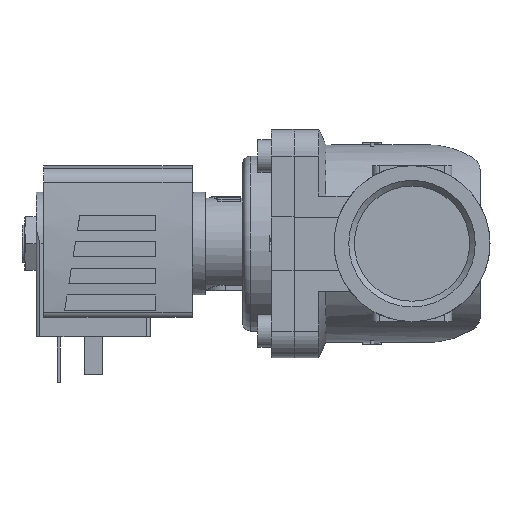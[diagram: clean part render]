
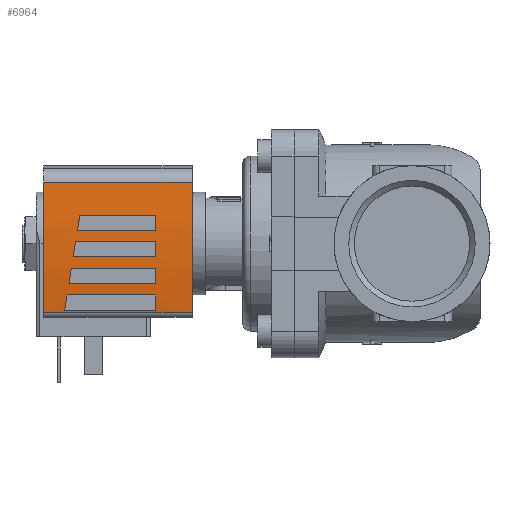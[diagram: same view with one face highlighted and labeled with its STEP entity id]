
A CAD part, left-side view. The second image highlights one B-rep face of the part: STEP entity #6964.
In plain terms, the highlighted cylindrical face has radius 130 mm (diameter 260 mm), a partial arc.
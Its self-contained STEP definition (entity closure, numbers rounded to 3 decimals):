
#164=ELLIPSE('',#7537,131.653,130.);
#165=ELLIPSE('',#7539,131.653,130.);
#166=ELLIPSE('',#7542,131.653,130.);
#167=ELLIPSE('',#7544,131.653,130.);
#247=CYLINDRICAL_SURFACE('',#7536,130.);
#636=LINE('',#10923,#1136);
#638=LINE('',#10943,#1138);
#639=LINE('',#10947,#1139);
#640=LINE('',#10948,#1140);
#641=LINE('',#10953,#1141);
#642=LINE('',#10958,#1142);
#643=LINE('',#10962,#1143);
#644=LINE('',#10966,#1144);
#645=LINE('',#10970,#1145);
#646=LINE('',#10974,#1146);
#1136=VECTOR('',#8960,1000.);
#1138=VECTOR('',#8982,1000.);
#1139=VECTOR('',#8985,1000.);
#1140=VECTOR('',#8986,1000.);
#1141=VECTOR('',#8989,1000.);
#1142=VECTOR('',#8994,1000.);
#1143=VECTOR('',#8997,1000.);
#1144=VECTOR('',#9000,1000.);
#1145=VECTOR('',#9003,1000.);
#1146=VECTOR('',#9006,1000.);
#2524=ORIENTED_EDGE('',*,*,#3563,.F.);
#2525=ORIENTED_EDGE('',*,*,#3564,.F.);
#2526=ORIENTED_EDGE('',*,*,#3565,.F.);
#2527=ORIENTED_EDGE('',*,*,#3566,.F.);
#2528=ORIENTED_EDGE('',*,*,#3567,.F.);
#2529=ORIENTED_EDGE('',*,*,#3568,.F.);
#2530=ORIENTED_EDGE('',*,*,#3569,.F.);
#2531=ORIENTED_EDGE('',*,*,#3570,.F.);
#2532=ORIENTED_EDGE('',*,*,#3571,.T.);
#2533=ORIENTED_EDGE('',*,*,#3572,.F.);
#2534=ORIENTED_EDGE('',*,*,#3557,.F.);
#2535=ORIENTED_EDGE('',*,*,#3554,.T.);
#2536=ORIENTED_EDGE('',*,*,#3573,.F.);
#2537=ORIENTED_EDGE('',*,*,#3574,.F.);
#2538=ORIENTED_EDGE('',*,*,#3575,.F.);
#2539=ORIENTED_EDGE('',*,*,#3576,.F.);
#2540=ORIENTED_EDGE('',*,*,#3577,.F.);
#2541=ORIENTED_EDGE('',*,*,#3578,.F.);
#2542=ORIENTED_EDGE('',*,*,#3579,.F.);
#2543=ORIENTED_EDGE('',*,*,#3580,.F.);
#3554=EDGE_CURVE('',#4177,#4176,#636,.T.);
#3557=EDGE_CURVE('',#4177,#4179,#4458,.T.);
#3563=EDGE_CURVE('',#4183,#4184,#164,.T.);
#3564=EDGE_CURVE('',#4185,#4183,#638,.F.);
#3565=EDGE_CURVE('',#4186,#4185,#4463,.T.);
#3566=EDGE_CURVE('',#4184,#4186,#639,.T.);
#3567=EDGE_CURVE('',#4187,#4188,#640,.T.);
#3568=EDGE_CURVE('',#4189,#4187,#165,.T.);
#3569=EDGE_CURVE('',#4190,#4189,#641,.F.);
#3570=EDGE_CURVE('',#4188,#4190,#4464,.T.);
#3571=EDGE_CURVE('',#4176,#4191,#4465,.T.);
#3572=EDGE_CURVE('',#4179,#4191,#642,.T.);
#3573=EDGE_CURVE('',#4192,#4193,#166,.T.);
#3574=EDGE_CURVE('',#4194,#4192,#643,.F.);
#3575=EDGE_CURVE('',#4195,#4194,#4466,.T.);
#3576=EDGE_CURVE('',#4193,#4195,#644,.T.);
#3577=EDGE_CURVE('',#4196,#4197,#167,.T.);
#3578=EDGE_CURVE('',#4198,#4196,#645,.F.);
#3579=EDGE_CURVE('',#4199,#4198,#4467,.T.);
#3580=EDGE_CURVE('',#4197,#4199,#646,.T.);
#4176=VERTEX_POINT('',#10922);
#4177=VERTEX_POINT('',#10924);
#4179=VERTEX_POINT('',#10930);
#4183=VERTEX_POINT('',#10941);
#4184=VERTEX_POINT('',#10942);
#4185=VERTEX_POINT('',#10944);
#4186=VERTEX_POINT('',#10946);
#4187=VERTEX_POINT('',#10949);
#4188=VERTEX_POINT('',#10950);
#4189=VERTEX_POINT('',#10952);
#4190=VERTEX_POINT('',#10954);
#4191=VERTEX_POINT('',#10957);
#4192=VERTEX_POINT('',#10960);
#4193=VERTEX_POINT('',#10961);
#4194=VERTEX_POINT('',#10963);
#4195=VERTEX_POINT('',#10965);
#4196=VERTEX_POINT('',#10968);
#4197=VERTEX_POINT('',#10969);
#4198=VERTEX_POINT('',#10971);
#4199=VERTEX_POINT('',#10973);
#4458=CIRCLE('',#7531,130.);
#4463=CIRCLE('',#7538,130.);
#4464=CIRCLE('',#7540,130.);
#4465=CIRCLE('',#7541,130.);
#4466=CIRCLE('',#7543,130.);
#4467=CIRCLE('',#7545,130.);
#4782=EDGE_LOOP('',(#2524,#2525,#2526,#2527));
#4783=EDGE_LOOP('',(#2528,#2529,#2530,#2531));
#4784=EDGE_LOOP('',(#2532,#2533,#2534,#2535));
#4785=EDGE_LOOP('',(#2536,#2537,#2538,#2539));
#4786=EDGE_LOOP('',(#2540,#2541,#2542,#2543));
#5175=FACE_BOUND('',#4782,.T.);
#5176=FACE_BOUND('',#4783,.T.);
#5177=FACE_BOUND('',#4784,.T.);
#5178=FACE_BOUND('',#4785,.T.);
#5179=FACE_BOUND('',#4786,.T.);
#6964=ADVANCED_FACE('',(#5175,#5176,#5177,#5178,#5179),#247,.T.);
#7531=AXIS2_PLACEMENT_3D('',#10929,#8967,#8968);
#7536=AXIS2_PLACEMENT_3D('',#10939,#8978,#8979);
#7537=AXIS2_PLACEMENT_3D('',#10940,#8980,#8981);
#7538=AXIS2_PLACEMENT_3D('',#10945,#8983,#8984);
#7539=AXIS2_PLACEMENT_3D('',#10951,#8987,#8988);
#7540=AXIS2_PLACEMENT_3D('',#10955,#8990,#8991);
#7541=AXIS2_PLACEMENT_3D('',#10956,#8992,#8993);
#7542=AXIS2_PLACEMENT_3D('',#10959,#8995,#8996);
#7543=AXIS2_PLACEMENT_3D('',#10964,#8998,#8999);
#7544=AXIS2_PLACEMENT_3D('',#10967,#9001,#9002);
#7545=AXIS2_PLACEMENT_3D('',#10972,#9004,#9005);
#8960=DIRECTION('',(0.,-1.,0.));
#8967=DIRECTION('',(0.,1.,0.));
#8968=DIRECTION('',(1.,0.,0.));
#8978=DIRECTION('',(0.,-1.,0.));
#8979=DIRECTION('',(0.,0.,-1.));
#8980=DIRECTION('',(-0.158,-0.987,0.));
#8981=DIRECTION('',(0.987,-0.158,0.));
#8982=DIRECTION('',(0.,-1.,0.));
#8983=DIRECTION('',(0.,1.,0.));
#8984=DIRECTION('',(0.,0.,1.));
#8985=DIRECTION('',(0.,-1.,0.));
#8986=DIRECTION('',(0.,-1.,0.));
#8987=DIRECTION('',(-0.158,-0.987,0.));
#8988=DIRECTION('',(0.987,-0.158,0.));
#8989=DIRECTION('',(0.,-1.,0.));
#8990=DIRECTION('',(0.,1.,0.));
#8991=DIRECTION('',(0.,0.,1.));
#8992=DIRECTION('',(0.,1.,0.));
#8993=DIRECTION('',(1.,0.,0.));
#8994=DIRECTION('',(0.,-1.,0.));
#8995=DIRECTION('',(-0.158,-0.987,0.));
#8996=DIRECTION('',(0.987,-0.158,0.));
#8997=DIRECTION('',(0.,-1.,0.));
#8998=DIRECTION('',(0.,1.,0.));
#8999=DIRECTION('',(0.,0.,1.));
#9000=DIRECTION('',(0.,-1.,0.));
#9001=DIRECTION('',(-0.158,-0.987,0.));
#9002=DIRECTION('',(0.987,-0.158,0.));
#9003=DIRECTION('',(0.,-1.,0.));
#9004=DIRECTION('',(0.,1.,0.));
#9005=DIRECTION('',(0.,0.,1.));
#9006=DIRECTION('',(0.,-1.,0.));
#10922=CARTESIAN_POINT('',(-18.071,-26.,14.738));
#10923=CARTESIAN_POINT('',(-18.071,13.,14.738));
#10924=CARTESIAN_POINT('',(-18.071,13.,14.738));
#10929=CARTESIAN_POINT('',(0.,13.,-114.));
#10930=CARTESIAN_POINT('',(16.195,13.,14.987));
#10939=CARTESIAN_POINT('',(0.,13.,-114.));
#10940=CARTESIAN_POINT('',(0.,4.7,-114.));
#10941=CARTESIAN_POINT('',(0.5,4.62,15.999));
#10942=CARTESIAN_POINT('',(-3.5,5.26,15.953));
#10943=CARTESIAN_POINT('',(0.5,13.,15.999));
#10944=CARTESIAN_POINT('',(0.5,-16.5,15.999));
#10945=CARTESIAN_POINT('',(0.,-16.5,-114.));
#10946=CARTESIAN_POINT('',(-3.5,-16.5,15.953));
#10947=CARTESIAN_POINT('',(-3.5,13.,15.953));
#10948=CARTESIAN_POINT('',(-17.5,13.,14.817));
#10949=CARTESIAN_POINT('',(-17.5,7.5,14.817));
#10950=CARTESIAN_POINT('',(-17.5,-16.5,14.817));
#10951=CARTESIAN_POINT('',(0.,4.7,-114.));
#10952=CARTESIAN_POINT('',(-13.5,6.86,15.297));
#10953=CARTESIAN_POINT('',(-13.5,13.,15.297));
#10954=CARTESIAN_POINT('',(-13.5,-16.5,15.297));
#10955=CARTESIAN_POINT('',(0.,-16.5,-114.));
#10956=CARTESIAN_POINT('',(0.,-26.,-114.));
#10957=CARTESIAN_POINT('',(16.195,-26.,14.987));
#10958=CARTESIAN_POINT('',(16.195,13.,14.987));
#10959=CARTESIAN_POINT('',(0.,4.7,-114.));
#10960=CARTESIAN_POINT('',(-6.5,5.74,15.837));
#10961=CARTESIAN_POINT('',(-10.5,6.38,15.575));
#10962=CARTESIAN_POINT('',(-6.5,13.,15.837));
#10963=CARTESIAN_POINT('',(-6.5,-16.5,15.837));
#10964=CARTESIAN_POINT('',(0.,-16.5,-114.));
#10965=CARTESIAN_POINT('',(-10.5,-16.5,15.575));
#10966=CARTESIAN_POINT('',(-10.5,13.,15.575));
#10967=CARTESIAN_POINT('',(0.,4.7,-114.));
#10968=CARTESIAN_POINT('',(7.5,3.5,15.783));
#10969=CARTESIAN_POINT('',(3.5,4.14,15.953));
#10970=CARTESIAN_POINT('',(7.5,13.,15.783));
#10971=CARTESIAN_POINT('',(7.5,-16.5,15.783));
#10972=CARTESIAN_POINT('',(0.,-16.5,-114.));
#10973=CARTESIAN_POINT('',(3.5,-16.5,15.953));
#10974=CARTESIAN_POINT('',(3.5,13.,15.953));
